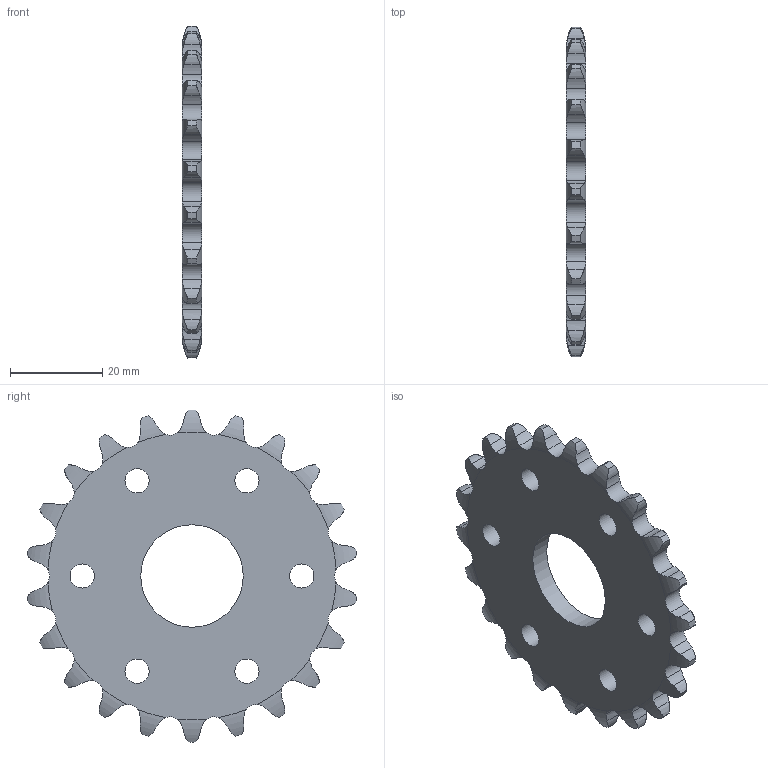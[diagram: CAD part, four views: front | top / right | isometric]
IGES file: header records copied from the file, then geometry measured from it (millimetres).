
Global section: file name: No Iges File Name specified; native system: AutoDesk Inventor R6.0; preprocessor: AutoDesk Inventor Iges Exporter R6.0; author: No Author specified; organization: No Organization specified; date: 20080105.192722; units: inch
Bounding box: 4.28 x 71.41 x 71.96 mm (x, y, z)
Surface area: 7765 mm2 (no closed solid volume)
Topology: 0 solids, 0 shells, 185 faces, 1098 edges, 1091 vertices
Faces by surface type: revolution 176, bspline 7, plane 2
